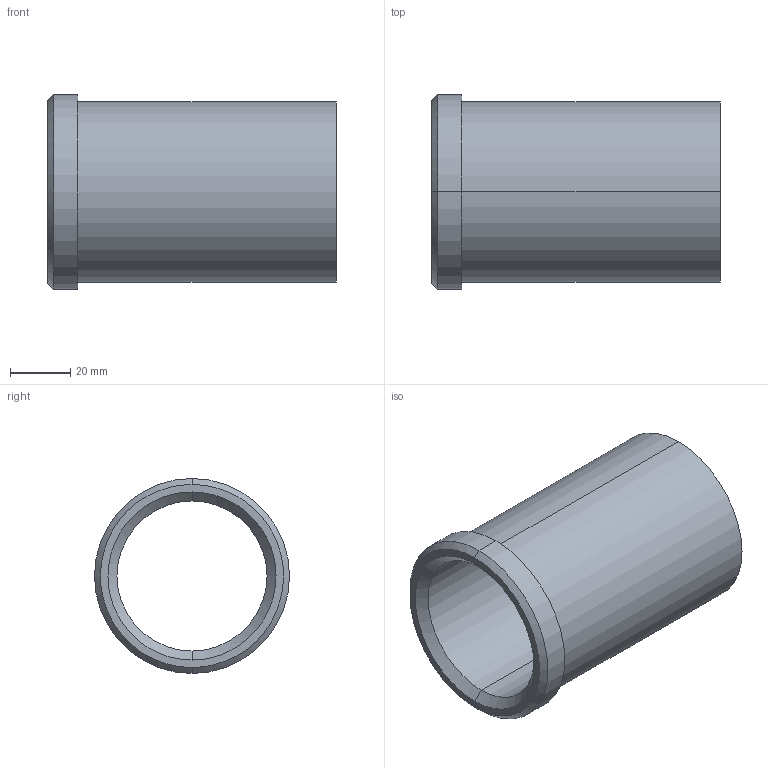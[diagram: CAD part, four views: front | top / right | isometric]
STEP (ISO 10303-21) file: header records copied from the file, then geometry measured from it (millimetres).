
FILE_DESCRIPTION(('CATIA V5 STEP Exchange'),'2;1');
FILE_NAME('C:\Users\Utente\Desktop\IO LAVORO\3D X SITO CF\X SITO\PLASTICA\353\353-50X96.stp','2021-05-14T13:22:33+00:00',('none'),('none'),'CATIA Version 5 Release 20 GA (IN-10)','CATIA V5 STEP AP203','none');
FILE_SCHEMA(('CONFIG_CONTROL_DESIGN'));
Length unit declared in the file: millimetre
Products named in the file (1): 353-50X96
Bounding box: 96 x 65 x 65 mm (x, y, z)
Volume: 86574.4 mm3; surface area: 35400.1 mm2
Topology: 1 solids, 1 shells, 15 faces, 48 edges, 36 vertices
Faces by surface type: cylinder 6, cone 4, plane 3, torus 2
Entity records: 680 total; most frequent: CARTESIAN_POINT 212, ORIENTED_EDGE 96, DIRECTION 70, EDGE_CURVE 48, AXIS2_PLACEMENT_3D 46, VERTEX_POINT 36, CIRCLE 30, EDGE_LOOP 18
